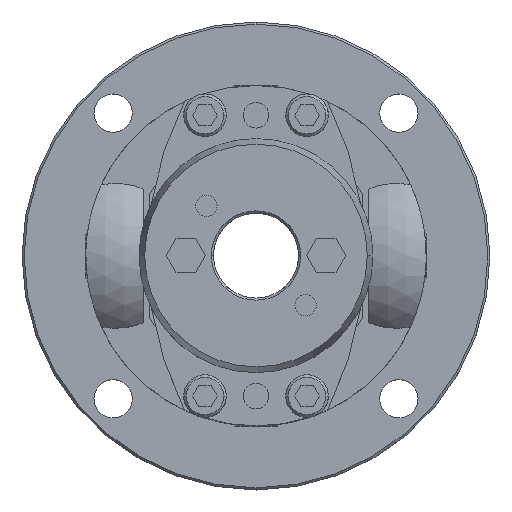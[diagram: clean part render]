
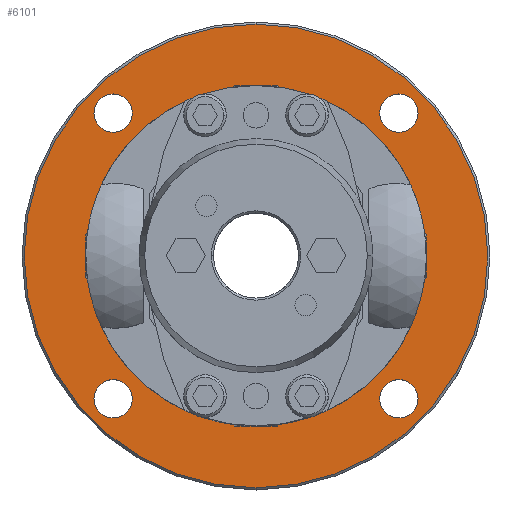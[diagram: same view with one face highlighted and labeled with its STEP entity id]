
A CAD part, top view. The second image highlights one B-rep face of the part: STEP entity #6101.
In plain terms, the highlighted planar face has unit normal (0, 0, 1).
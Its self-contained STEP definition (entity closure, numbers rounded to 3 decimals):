
#730=CARTESIAN_POINT('',(0.,-40.0,-16.0));
#731=VERTEX_POINT('',#730);
#847=CARTESIAN_POINT('',(0.,40.0,-16.0));
#848=VERTEX_POINT('',#847);
#855=CARTESIAN_POINT('',(0.0,0.0,-16.0));
#856=DIRECTION('',(0.0,0.0,-1.0));
#857=DIRECTION('',(0.0,1.0,0.0));
#858=AXIS2_PLACEMENT_3D('',#855,#856,#857);
#859=CIRCLE('',#858,40.0);
#860=EDGE_CURVE('',#731,#848,#859,.T.);
#1357=CARTESIAN_POINT('',(-33.588,38.088,-16.0));
#1358=VERTEX_POINT('',#1357);
#1367=CARTESIAN_POINT('',(-33.588,29.088,-16.0));
#1368=VERTEX_POINT('',#1367);
#1369=CARTESIAN_POINT('',(-33.588,33.588,-16.0));
#1370=DIRECTION('',(0.0,0.0,-1.0));
#1371=DIRECTION('',(0.0,1.0,0.0));
#1372=AXIS2_PLACEMENT_3D('',#1369,#1370,#1371);
#1373=CIRCLE('',#1372,4.5);
#1374=EDGE_CURVE('',#1368,#1358,#1373,.T.);
#1399=CARTESIAN_POINT('',(33.588,38.088,-16.0));
#1400=VERTEX_POINT('',#1399);
#1409=CARTESIAN_POINT('',(33.588,29.088,-16.0));
#1410=VERTEX_POINT('',#1409);
#1411=CARTESIAN_POINT('',(33.588,33.588,-16.0));
#1412=DIRECTION('',(0.0,0.0,-1.0));
#1413=DIRECTION('',(0.0,1.0,0.0));
#1414=AXIS2_PLACEMENT_3D('',#1411,#1412,#1413);
#1415=CIRCLE('',#1414,4.5);
#1416=EDGE_CURVE('',#1410,#1400,#1415,.T.);
#1441=CARTESIAN_POINT('',(33.588,-29.088,-16.0));
#1442=VERTEX_POINT('',#1441);
#1451=CARTESIAN_POINT('',(33.588,-38.088,-16.0));
#1452=VERTEX_POINT('',#1451);
#1453=CARTESIAN_POINT('',(33.588,-33.588,-16.0));
#1454=DIRECTION('',(0.0,0.0,-1.0));
#1455=DIRECTION('',(0.0,1.0,0.0));
#1456=AXIS2_PLACEMENT_3D('',#1453,#1454,#1455);
#1457=CIRCLE('',#1456,4.5);
#1458=EDGE_CURVE('',#1452,#1442,#1457,.T.);
#1483=CARTESIAN_POINT('',(-33.588,-29.088,-16.0));
#1484=VERTEX_POINT('',#1483);
#1493=CARTESIAN_POINT('',(-33.588,-38.088,-16.0));
#1494=VERTEX_POINT('',#1493);
#1495=CARTESIAN_POINT('',(-33.588,-33.588,-16.0));
#1496=DIRECTION('',(0.0,0.0,-1.0));
#1497=DIRECTION('',(0.0,1.0,0.0));
#1498=AXIS2_PLACEMENT_3D('',#1495,#1496,#1497);
#1499=CIRCLE('',#1498,4.5);
#1500=EDGE_CURVE('',#1494,#1484,#1499,.T.);
#2031=CARTESIAN_POINT('',(0.,-54.5,-16.0));
#2032=VERTEX_POINT('',#2031);
#2041=CARTESIAN_POINT('',(0.,54.5,-16.0));
#2042=VERTEX_POINT('',#2041);
#2043=CARTESIAN_POINT('',(0.0,0.0,-16.0));
#2044=DIRECTION('',(0.0,0.0,-1.0));
#2045=DIRECTION('',(0.0,-1.0,0.0));
#2046=AXIS2_PLACEMENT_3D('',#2043,#2044,#2045);
#2047=CIRCLE('',#2046,54.5);
#2048=EDGE_CURVE('',#2032,#2042,#2047,.T.);
#6032=CARTESIAN_POINT('',(0.0,0.0,-16.0));
#6033=DIRECTION('',(0.0,0.0,-1.0));
#6034=DIRECTION('',(0.0,-1.0,0.0));
#6035=AXIS2_PLACEMENT_3D('',#6032,#6033,#6034);
#6036=CIRCLE('',#6035,54.5);
#6037=EDGE_CURVE('',#2042,#2032,#6036,.T.);
#6042=CARTESIAN_POINT('',(0.,5.,-16.0));
#6043=DIRECTION('',(0.0,0.0,1.0));
#6044=DIRECTION('',(0.0,1.0,0.0));
#6045=AXIS2_PLACEMENT_3D('',#6042,#6043,#6044);
#6046=PLANE('',#6045);
#6047=ORIENTED_EDGE('',*,*,#6037,.F.);
#6048=ORIENTED_EDGE('',*,*,#2048,.F.);
#6049=EDGE_LOOP('',(#6047,#6048));
#6050=FACE_OUTER_BOUND('',#6049,.T.);
#6051=ORIENTED_EDGE('',*,*,#860,.T.);
#6052=CARTESIAN_POINT('',(0.0,0.0,-16.0));
#6053=DIRECTION('',(0.0,0.0,-1.0));
#6054=DIRECTION('',(0.0,1.0,0.0));
#6055=AXIS2_PLACEMENT_3D('',#6052,#6053,#6054);
#6056=CIRCLE('',#6055,40.0);
#6057=EDGE_CURVE('',#848,#731,#6056,.T.);
#6058=ORIENTED_EDGE('',*,*,#6057,.T.);
#6059=EDGE_LOOP('',(#6051,#6058));
#6060=FACE_BOUND('',#6059,.T.);
#6061=ORIENTED_EDGE('',*,*,#1374,.T.);
#6062=CARTESIAN_POINT('',(-33.588,33.588,-16.0));
#6063=DIRECTION('',(0.0,0.0,-1.0));
#6064=DIRECTION('',(0.0,1.0,0.0));
#6065=AXIS2_PLACEMENT_3D('',#6062,#6063,#6064);
#6066=CIRCLE('',#6065,4.5);
#6067=EDGE_CURVE('',#1358,#1368,#6066,.T.);
#6068=ORIENTED_EDGE('',*,*,#6067,.T.);
#6069=EDGE_LOOP('',(#6061,#6068));
#6070=FACE_BOUND('',#6069,.T.);
#6071=ORIENTED_EDGE('',*,*,#1416,.T.);
#6072=CARTESIAN_POINT('',(33.588,33.588,-16.0));
#6073=DIRECTION('',(0.0,0.0,-1.0));
#6074=DIRECTION('',(0.0,1.0,0.0));
#6075=AXIS2_PLACEMENT_3D('',#6072,#6073,#6074);
#6076=CIRCLE('',#6075,4.5);
#6077=EDGE_CURVE('',#1400,#1410,#6076,.T.);
#6078=ORIENTED_EDGE('',*,*,#6077,.T.);
#6079=EDGE_LOOP('',(#6071,#6078));
#6080=FACE_BOUND('',#6079,.T.);
#6081=ORIENTED_EDGE('',*,*,#1458,.T.);
#6082=CARTESIAN_POINT('',(33.588,-33.588,-16.0));
#6083=DIRECTION('',(0.0,0.0,-1.0));
#6084=DIRECTION('',(0.0,1.0,0.0));
#6085=AXIS2_PLACEMENT_3D('',#6082,#6083,#6084);
#6086=CIRCLE('',#6085,4.5);
#6087=EDGE_CURVE('',#1442,#1452,#6086,.T.);
#6088=ORIENTED_EDGE('',*,*,#6087,.T.);
#6089=EDGE_LOOP('',(#6081,#6088));
#6090=FACE_BOUND('',#6089,.T.);
#6091=ORIENTED_EDGE('',*,*,#1500,.T.);
#6092=CARTESIAN_POINT('',(-33.588,-33.588,-16.0));
#6093=DIRECTION('',(0.0,0.0,-1.0));
#6094=DIRECTION('',(0.0,1.0,0.0));
#6095=AXIS2_PLACEMENT_3D('',#6092,#6093,#6094);
#6096=CIRCLE('',#6095,4.5);
#6097=EDGE_CURVE('',#1484,#1494,#6096,.T.);
#6098=ORIENTED_EDGE('',*,*,#6097,.T.);
#6099=EDGE_LOOP('',(#6091,#6098));
#6100=FACE_BOUND('',#6099,.T.);
#6101=ADVANCED_FACE('',(#6050,#6060,#6070,#6080,#6090,#6100),#6046,.T.);
